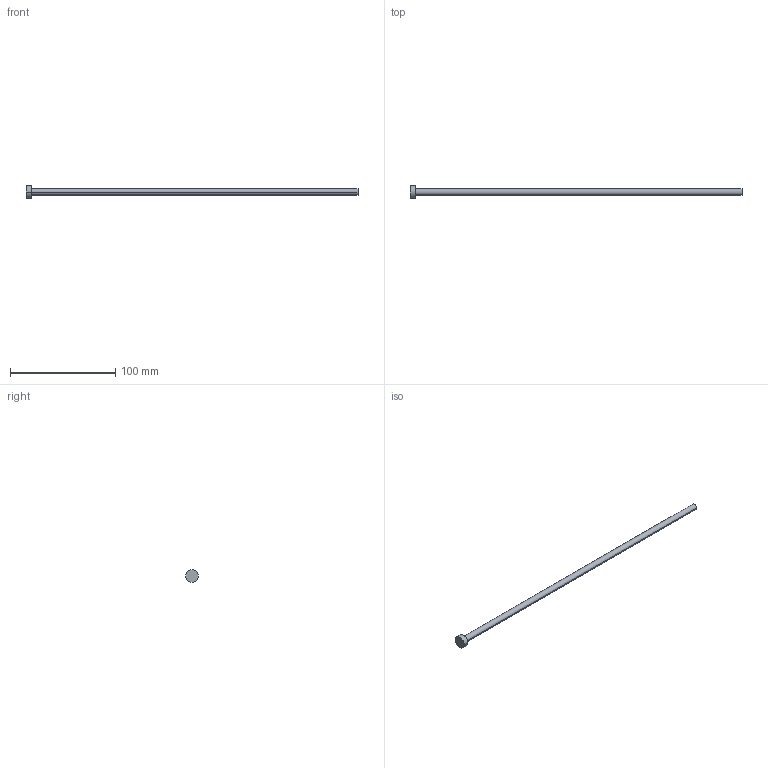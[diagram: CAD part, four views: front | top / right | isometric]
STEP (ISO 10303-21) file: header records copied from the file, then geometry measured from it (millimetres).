
FILE_DESCRIPTION (( 'STEP AP214' ), '1' );
FILE_NAME ('A-6x315.STEP', '2020-05-29T15:41:19', ( 'August' ), ( '' ), 'SwSTEP 2.0', 'SolidWorks 2018', '' );
FILE_SCHEMA (( 'AUTOMOTIVE_DESIGN' ));
Length unit declared in the file: millimetre
Products named in the file (1): A-6x315
Bounding box: 315 x 12 x 12 mm (x, y, z)
Volume: 9331.6 mm3; surface area: 6254.1 mm2
Topology: 1 solids, 1 shells, 9 faces, 16 edges, 10 vertices
Faces by surface type: cylinder 4, plane 3, torus 2
Entity records: 260 total; most frequent: DIRECTION 48, CARTESIAN_POINT 36, ORIENTED_EDGE 32, AXIS2_PLACEMENT_3D 22, EDGE_CURVE 16, CIRCLE 12, EDGE_LOOP 10, VERTEX_POINT 10
